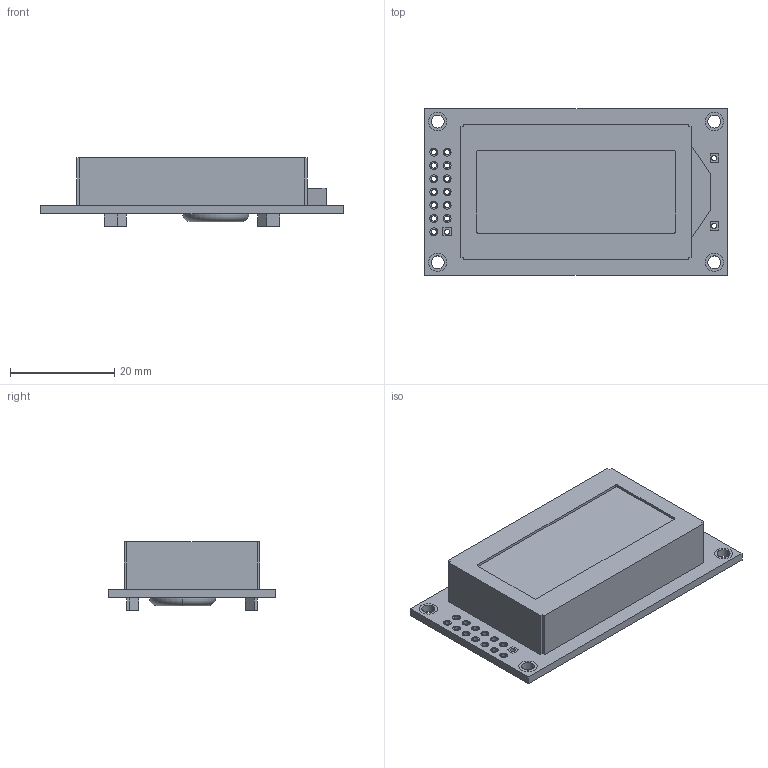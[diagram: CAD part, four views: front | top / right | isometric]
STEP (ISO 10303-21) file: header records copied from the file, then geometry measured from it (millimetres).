
FILE_DESCRIPTION (( 'STEP AP214' ), '1' );
FILE_NAME ('NHD-0208BZ-FSW-GBW-33V3.STEP', '2017-05-10T19:54:56', ( '' ), ( '' ), 'SwSTEP 2.0', 'SolidWorks 2015', '' );
FILE_SCHEMA (( 'AUTOMOTIVE_DESIGN' ));
Length unit declared in the file: millimetre
Products named in the file (1): NHD-0208BZ-FSW-GBW-33V3
Bounding box: 58 x 32 x 13.2 mm (x, y, z)
Volume: 13515 mm3; surface area: 5594.8 mm2
Topology: 1 solids, 1 shells, 271 faces, 650 edges, 428 vertices
Faces by surface type: plane 157, cylinder 112, torus 2
Entity records: 10869 total; most frequent: DIRECTION 1424, CARTESIAN_POINT 1350, ORIENTED_EDGE 1300, EDGE_CURVE 650, AXIS2_PLACEMENT_3D 502, VERTEX_POINT 428, VECTOR 420, LINE 420
